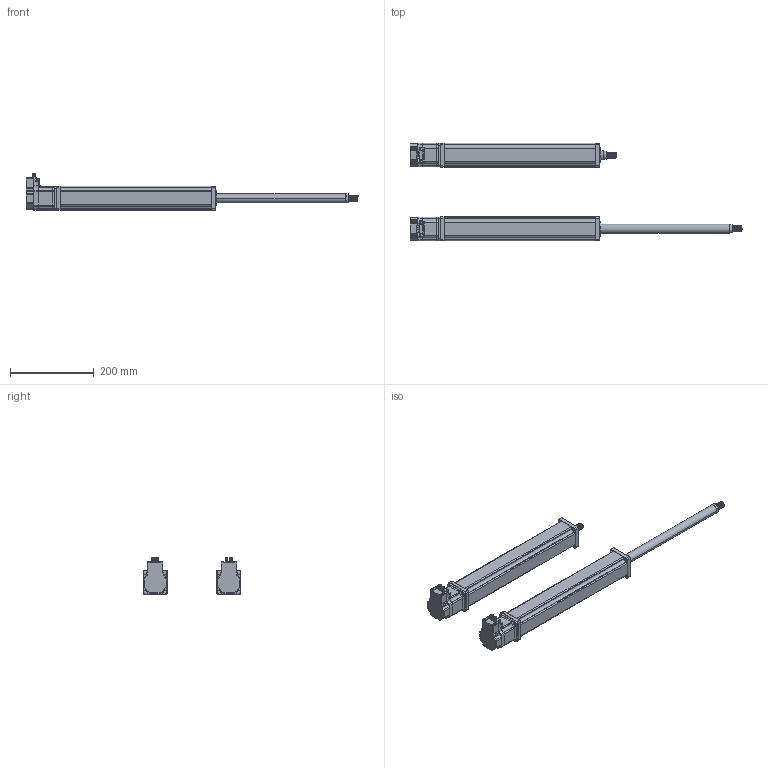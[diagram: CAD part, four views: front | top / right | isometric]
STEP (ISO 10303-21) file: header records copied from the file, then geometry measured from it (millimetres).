
FILE_DESCRIPTION(('STEP AP214'),'1');
FILE_NAME('\Tsurumi-main\3d_dad2\Servo_Motor\tmp0.STEP',' ',(' '),(' '),'XStep 1.0',' ',' ');
FILE_SCHEMA(('automotive_design'));
Length unit declared in the file: millimetre
Bounding box: 790.49 x 233.23 x 88.1 mm (x, y, z)
Volume: 2831269.4 mm3; surface area: 341429.7 mm2
Topology: 48 solids, 48 shells, 1828 faces, 5014 edges, 3286 vertices
Faces by surface type: plane 1250, cylinder 470, bspline 60, torus 36, sphere 8, cone 4
Entity records: 112259 total; most frequent: CARTESIAN_POINT 49708, ORIENTED_EDGE 9996, DIRECTION 9460, EDGE_CURVE 4998, LINE 3900, VECTOR 3900, VERTEX_POINT 3286, AXIS2_PLACEMENT_3D 2780
